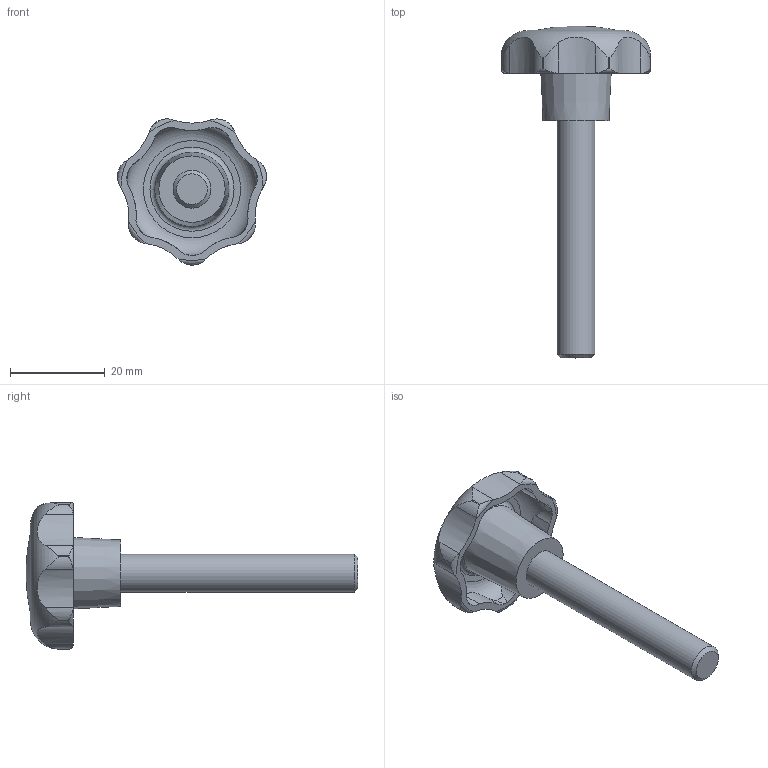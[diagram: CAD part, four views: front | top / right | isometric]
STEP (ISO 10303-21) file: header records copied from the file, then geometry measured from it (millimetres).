
FILE_DESCRIPTION( ( 'STEP AP203' ), '1' );
FILE_NAME( 'C:/Temp/Ganter_Step_05_03_2020/data/2_2/gn_6336_4/gn_6336_4_st/Star knob GN 6336.4-ST-32-M8-50.stp', '2020-03-05T12:07:26', ( 'License CC BY-ND 4.0' ), ( 'CADENAS' ), ' ', 'PARTsolutions', ' ' );
FILE_SCHEMA( ( 'CONFIG_CONTROL_DESIGN' ) );
Length unit declared in the file: millimetre
Products named in the file (1): _Star knob GN 6336.4-ST-32-M8-50
Bounding box: 31.4 x 70 x 30.81 mm (x, y, z)
Volume: 8311.5 mm3; surface area: 4428 mm2
Topology: 1 solids, 1 shells, 74 faces, 209 edges, 138 vertices
Faces by surface type: cylinder 50, torus 10, cone 10, plane 3, sphere 1
Full cylindrical faces by diameter (mm): 8 x1
Entity records: 3221 total; most frequent: CARTESIAN_POINT 1406, ORIENTED_EDGE 394, DIRECTION 336, EDGE_CURVE 197, AXIS2_PLACEMENT_3D 147, VERTEX_POINT 136, EDGE_LOOP 83, B_SPLINE_CURVE_WITH_KNOTS 83
